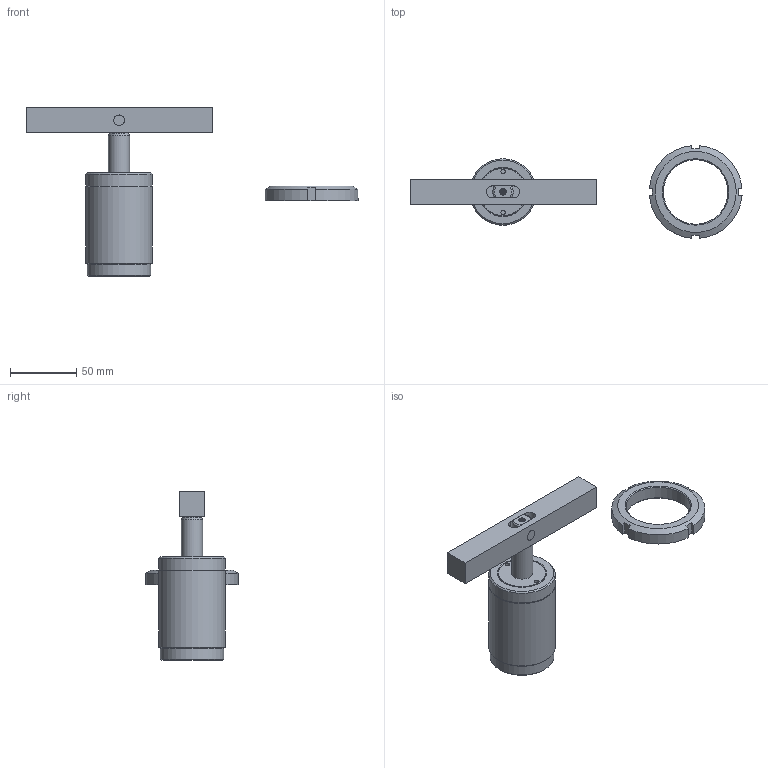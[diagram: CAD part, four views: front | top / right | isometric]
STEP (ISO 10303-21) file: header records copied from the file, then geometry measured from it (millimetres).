
FILE_DESCRIPTION(/* description */ ('Unknown'),/* implementation_level */ '2;1');
FILE_NAME(/* name */ 'ASC-TB32D-B',/* time_stamp */ '2022-08-26T02:42:43+08:00',/* author */ ('Unknown'),/* organization */ ('Unknown'),/* preprocessor_version */ 'ST-DEVELOPER v16.7',/* originating_system */ 'DEX',/* authorisation */ $);
FILE_SCHEMA (('AUTOMOTIVE_DESIGN {1 0 10303 214 3 1 1}'));
Length unit declared in the file: millimetre
Products named in the file (6): ASC-TB32D-B; ASC-3202-D-AXLE CENTRE; ASC-32D-B; ASC-TB32D-CYLINDER; ASC-3202-D-FIXED PIN; ASC-TB32-Nut
Assembly tree (5 placements, depth 2):
  ASC-TB32D-B
    ASC-3202-D-AXLE CENTRE
    ASC-32D-B
    ASC-TB32D-CYLINDER
    ASC-3202-D-FIXED PIN
    ASC-TB32-Nut
Bounding box: 249.87 x 69.74 x 127 mm (x, y, z)
Volume: 204509.1 mm3; surface area: 49383.3 mm2
Topology: 5 solids, 5 shells, 105 faces, 228 edges, 143 vertices
Faces by surface type: plane 48, cylinder 24, cone 17, bspline 12, torus 4
Full cylindrical faces by diameter (mm): 3.2 x2, 8 x4, 9.147 x2, 16 x2, 32 x2, 48 x1, 48.5 x1, 50 x2
Entity records: 3169 total; most frequent: CARTESIAN_POINT 643, DIRECTION 430, ORIENTED_EDGE 356, AXIS2_PLACEMENT_3D 181, EDGE_CURVE 178, EDGE_LOOP 160, FACE_BOUND 160, VERTEX_POINT 128
